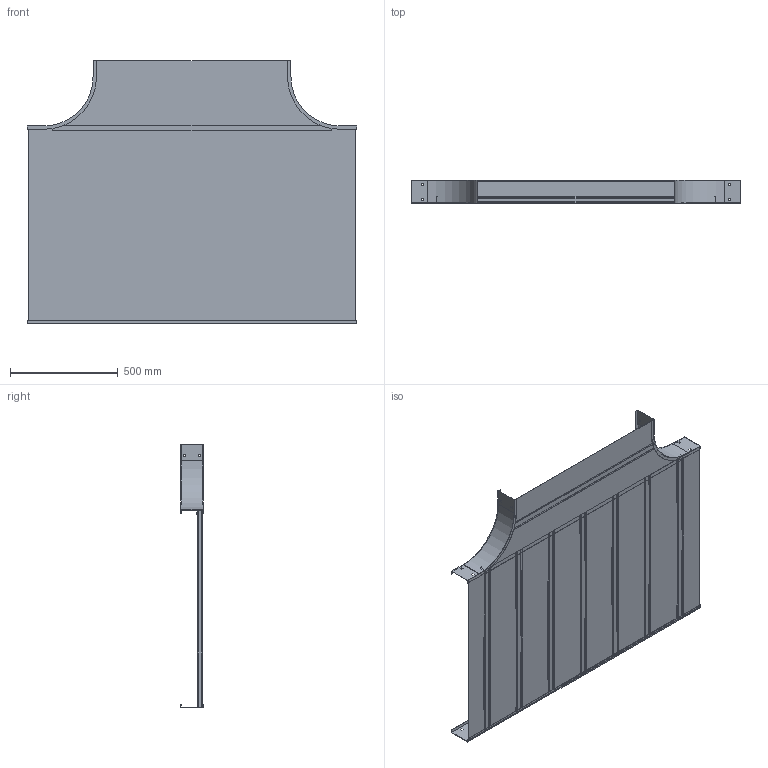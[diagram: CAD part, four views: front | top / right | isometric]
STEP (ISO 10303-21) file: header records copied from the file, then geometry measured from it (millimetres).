
FILE_DESCRIPTION((''),'2;1');
FILE_NAME('AUF436SHT12_ASM','2010-01-27T',('erouzier'),(''),'PRO/ENGINEER BY PARAMETRIC TECHNOLOGY CORPORATION, 2008510','PRO/ENGINEER BY PARAMETRIC TECHNOLOGY CORPORATION, 2008510','');
FILE_SCHEMA(('CONFIG_CONTROL_DESIGN'));
Length unit declared in the file: inch
Products named in the file (13): CDS001319-4-90-9-I; CDS013841-4-60; CDS000495_GEN_AF7; CDS002159L36_AF9; CDS002159L36_AF10; CDS002159L36_AF11; CDS002159L36_AF12; CDS002159L36_AF13; CDS002159L36_AF14; CDS002159L36_AF15; CDS002159L36_AF8; CDS003791-36-12-36; AUF436SHT12_ASM
Assembly tree (13 placements, depth 2):
  AUF436SHT12_ASM
    CDS001319-4-90-9-I  x2
    CDS013841-4-60
    CDS000495_GEN_AF7
    CDS002159L36_AF9
    CDS002159L36_AF10
    CDS002159L36_AF11
    CDS002159L36_AF12
    CDS002159L36_AF13
    CDS002159L36_AF14
    CDS002159L36_AF15
    CDS002159L36_AF8
    CDS003791-36-12-36
Bounding box: 1528.57 x 106.05 x 1223.77 mm (x, y, z)
Volume: 3722182.7 mm3; surface area: 5970704.1 mm2
Topology: 13 solids, 13 shells, 356 faces, 990 edges, 660 vertices
Faces by surface type: plane 258, cylinder 98
Entity records: 10625 total; most frequent: CARTESIAN_POINT 1838, ORIENTED_EDGE 1788, DIRECTION 1778, EDGE_CURVE 894, VECTOR 706, LINE 706, VERTEX_POINT 596, AXIS2_PLACEMENT_3D 536
